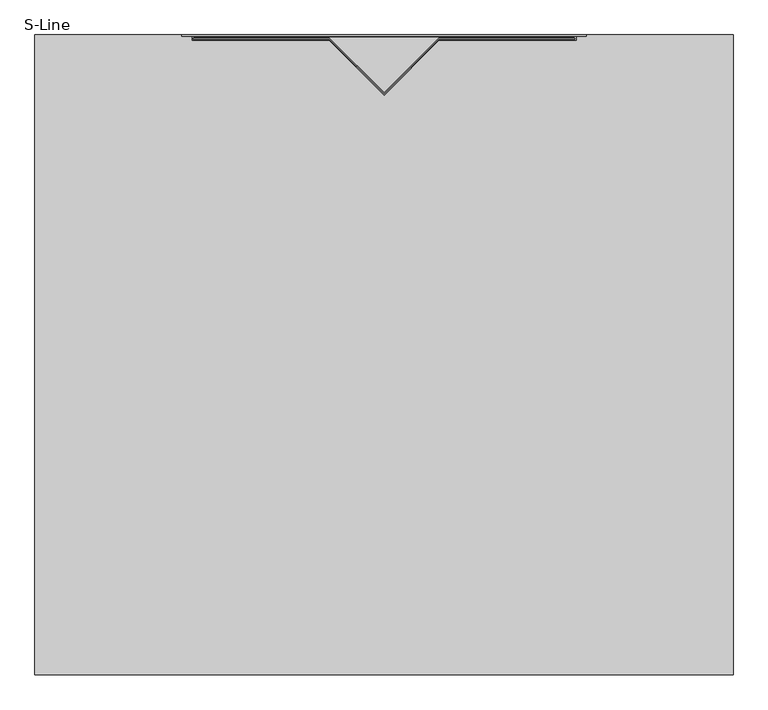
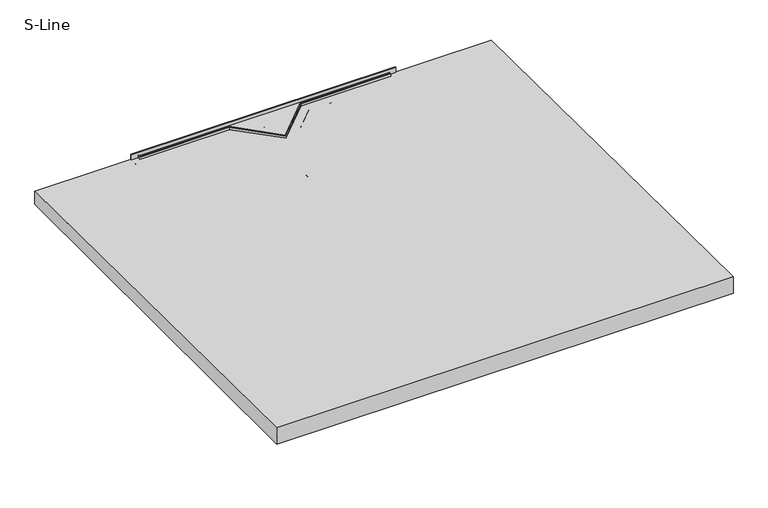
"""IFC4 building model written with IfcOpenShell, lengths in millimetres: sanitary terminal geometry, NLRS_PF_52_UN_Showerboard S-Line_Easydrain : S-Line."""

from ifc_helpers import new_model, si_unit, point, frame, frame_2d, origin, place, context, project, spatial, polyline, circle_curve, trimmed, segment, composite_curve, outline, extrude, faceted_brep, source, transform, mapped, element, save


def s_line_e55ddfc2(model_context):
    return source(origin(), model_context, "Body", "SolidModel", [
        extrude(outline(composite_curve([segment(trimmed(circle_curve(frame_2d((-94.5, 0.0)), 25.0), [point((-119.5, 0.0))], [point((-69.5, 0.0))], False, "CARTESIAN"), True, "CONTINUOUS"), segment(trimmed(circle_curve(frame_2d((-94.5, 0.0)), 25.0), [point((-69.5, 0.0))], [point((-119.5, 0.0))], False, "CARTESIAN"), True, "CONTINUOUS")], self_intersect=False)), frame((0.0, -189.0, 0.0), z_axis=(0.0, 1.0, 0.0), x_axis=(0.0, 0.0, 1.0)), (0.0, 0.0, 1.0), 108.0),
        extrude(outline(composite_curve([segment(trimmed(circle_curve(frame_2d((22.3675767, -116.8675767)), 4.6324233), [point((27.0, -116.8675767))], [point((22.3675767, -121.5))], False, "CARTESIAN"), True, "CONTINUOUS"), segment(polyline([(22.3675767, -121.5), (-93.4993465, -121.5)]), True, "CONTINUOUS"), segment(trimmed(circle_curve(frame_2d((-78.5994856, -115.6878307)), 15.9933476), [point((-93.4993465, -121.5))], [point((-94.552105, -116.8284894))], False, "CARTESIAN"), True, "CONTINUOUS"), segment(polyline([(-94.552105, -116.8284894), (-101.0242264, -78.0447741)]), True, "CONTINUOUS"), segment(trimmed(circle_curve(frame_2d((-129.3084976, -78.0447741)), 28.2842712), [point((-101.0242264, -78.0447741))], [point((-129.3084976, -106.3290454))], False, "CARTESIAN"), True, "CONTINUOUS"), segment(trimmed(circle_curve(frame_2d((-119.8439198, -81.7956944)), 26.2956944), [point((-129.3084976, -106.3290454))], [point((-119.8439198, -55.5))], False, "CARTESIAN"), True, "CONTINUOUS"), segment(polyline([(-119.8439198, -55.5), (-84.5778291, -55.5)]), True, "CONTINUOUS"), segment(trimmed(circle_curve(frame_2d((-89.0794932, -61.231688)), 7.2881566), [point((-84.5778291, -55.5))], [point((-83.3799699, -56.689369))], False, "CARTESIAN"), True, "CONTINUOUS"), segment(polyline([(-83.3799699, -56.689369), (-74.2149251, -89.5)]), True, "CONTINUOUS"), segment(trimmed(circle_curve(frame_2d((-67.2657703, -87.1709247)), 7.3290753), [point((-74.2149251, -89.5))], [point((-67.2657703, -94.5))], True, "CARTESIAN"), True, "CONTINUOUS"), segment(polyline([(-67.2657703, -94.5), (21.6324233, -94.5)]), True, "CONTINUOUS"), segment(trimmed(circle_curve(frame_2d((21.6324233, -99.8675767)), 5.3675767), [point((21.6324233, -94.5))], [point((27.0, -99.8675767))], False, "CARTESIAN"), True, "CONTINUOUS"), segment(polyline([(27.0, -99.8675767), (27.0, -116.8675767)]), True, "CONTINUOUS")], self_intersect=False)), frame((-60.0, 0.0, 0.0), z_axis=(1.0, 0.0, 0.0), x_axis=(0.0, 1.0, 0.0)), (0.0, 0.0, 1.0), 120.0),
        extrude(outline(composite_curve([segment(trimmed(circle_curve(frame_2d((0.0, -21.0)), 40.0), [point((-40.0, -21.0))], [point((40.0, -21.0))], False, "CARTESIAN"), True, "CONTINUOUS"), segment(trimmed(circle_curve(frame_2d((0.0, -21.0)), 40.0), [point((40.0, -21.0))], [point((-40.0, -21.0))], False, "CARTESIAN"), True, "CONTINUOUS")], self_intersect=False)), frame((0.0, 0.0, -94.5), z_axis=(0.0, 0.0, 1.0), x_axis=(1.0, 0.0, 0.0)), (0.0, 0.0, 1.0), 50.0),
        extrude(outline(composite_curve([segment(trimmed(circle_curve(frame_2d((0.0, -21.0)), 25.0), [point((-25.0, -21.0))], [point((25.0, -21.0))], False, "CARTESIAN"), True, "CONTINUOUS"), segment(trimmed(circle_curve(frame_2d((0.0, -21.0)), 25.0), [point((25.0, -21.0))], [point((-25.0, -21.0))], False, "CARTESIAN"), True, "CONTINUOUS")], self_intersect=False)), frame((0.0, 0.0, -44.5), z_axis=(0.0, 0.0, 1.0), x_axis=(1.0, 0.0, 0.0)), (0.0, 0.0, 1.0), 13.0),
        extrude(outline(polyline([(33.0, -7.0), (33.0, -43.0), (-1067.0, -43.0), (-1067.0, 3.0), (33.0, -7.0)])), frame((-600.0, 0.0, 0.0), z_axis=(1.0, 0.0, 0.0), x_axis=(0.0, 1.0, 0.0)), (0.0, 0.0, 1.0), 1200.0),
        extrude(outline(polyline([(347.5, 33.0), (347.5, 0.0), (101.0, 0.0), (0.0, -101.0), (-101.0, 0.0), (-347.5, 0.0), (-347.5, 33.0), (347.5, 33.0)])), frame((0.0, 0.0, -10.0), z_axis=(0.0, 0.0, 1.0), x_axis=(1.0, 0.0, 0.0)), (0.0, 0.0, 1.0), 3.0),
        extrude(outline(composite_curve([segment(trimmed(circle_curve(frame_2d((0.0, -21.0)), 25.0), [point((-25.0, -21.0))], [point((25.0, -21.0))], False, "CARTESIAN"), True, "CONTINUOUS"), segment(trimmed(circle_curve(frame_2d((0.0, -21.0)), 25.0), [point((25.0, -21.0))], [point((-25.0, -21.0))], False, "CARTESIAN"), True, "CONTINUOUS")], self_intersect=False)), frame((0.0, 0.0, -31.5), z_axis=(0.0, 0.0, 1.0), x_axis=(1.0, 0.0, 0.0)), (0.0, 0.0, 1.0), 24.5),
        faceted_brep([(347.5, 33.0, 8.0), (-347.5, 33.0, 8.0), (-347.5, 31.0, 8.0), (347.5, 31.0, 8.0), (347.5, 33.0, -7.0), (-347.5, 33.0, -7.0), (-347.5, 31.0, -7.0), (-330.0, 31.0, -7.0), (-330.0, 31.0, 0.0), (-327.5, 31.0, 0.0), (-327.5, 31.0, -7.0), (327.5, 31.0, -7.0), (327.5, 31.0, 0.0), (330.0, 31.0, 0.0), (330.0, 31.0, -7.0), (347.5, 31.0, -7.0), (-94.4, 23.4, 0.0), (0.0, -71.0, 0.0), (94.4, 23.4, 0.0), (330.0, 23.4, 0.0), (327.5, 29.0, 0.0), (-327.5, 29.0, 0.0), (-330.0, 23.4, 0.0), (-93.8972829, 25.4, 0.0), (-327.5, 25.4, 0.0), (-327.5, 27.4, 0.0), (-93.9087807, 27.4, 0.0), (0.0, -66.5087807, 0.0), (93.9087807, 27.4, 0.0), (327.5, 27.4, 0.0), (327.5, 25.4, 0.0), (93.8972829, 25.4, 0.0), (0.0, -68.4972829, 0.0), (-330.0, 23.4, -7.0), (-94.4, 23.4, -7.0), (94.4, 23.4, -7.0), (330.0, 23.4, -7.0), (0.0, -71.0, -7.0), (-93.8972829, 25.4, -7.0), (-327.5, 25.4, -7.0), (-327.5, 27.4, -7.0), (-93.9087807, 27.4, -7.0), (0.0, -66.5087807, -7.0), (93.9087807, 27.4, -7.0), (327.5, 27.4, -7.0), (327.5, 25.4, -7.0), (93.8972829, 25.4, -7.0), (0.0, -68.4972829, -7.0), (-327.5, 29.0, -7.0), (327.5, 29.0, -7.0)], [[[0, 1, 2, 3]], [[1, 0, 4, 5]], [[2, 1, 5, 6]], [[3, 2, 6, 7, 8, 9, 10, 11, 12, 13, 14, 15]], [[0, 3, 15, 4]], [[16, 17, 18, 19, 13, 12, 20, 21, 9, 8, 22], [23, 24, 25, 26, 27, 28, 29, 30, 31, 32]], [[16, 22, 33, 34]], [[19, 18, 35, 36]], [[18, 17, 37, 35]], [[17, 16, 34, 37]], [[24, 23, 38, 39]], [[25, 24, 39, 40]], [[26, 25, 40, 41]], [[27, 26, 41, 42]], [[28, 27, 42, 43]], [[29, 28, 43, 44]], [[30, 29, 44, 45]], [[31, 30, 45, 46]], [[32, 31, 46, 47]], [[23, 32, 47, 38]], [[4, 15, 14, 36, 35, 37, 34, 33, 7, 6, 5], [38, 47, 46, 45, 44, 43, 42, 41, 40, 39], [11, 10, 48, 49]], [[22, 8, 7, 33]], [[21, 20, 49, 48]], [[13, 19, 36, 14]], [[20, 12, 11, 49]], [[9, 21, 48, 10]]]),
    ])


if __name__ == "__main__":
    model = new_model("IFC4")
    model_context = context("Model", 3, world=origin())
    ifc_project = project(units=[si_unit("LENGTHUNIT", "METRE", prefix="MILLI")], contexts=[model_context])
    site = spatial("IfcSite", under=ifc_project)
    building = spatial("IfcBuilding", under=site)
    placement = place(None, origin())
    s_line_shape = s_line_e55ddfc2(model_context)
    element("IfcSanitaryTerminal", 1, ObjectType="NLRS_PF_52_UN_Showerboard S-Line_Easydrain : S-Line", at=placement, inside=building, context=model_context, shape_type="MappedRepresentation", body=[
        mapped(s_line_shape, transform((0.0, 0.0, 0.0), x_axis=(1.0, 0.0, 0.0), y_axis=(0.0, 1.0, 0.0), z_axis=(0.0, 0.0, 1.0))),
    ])
    save(model, "model.ifc")
